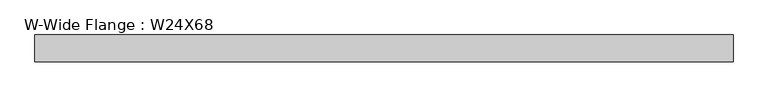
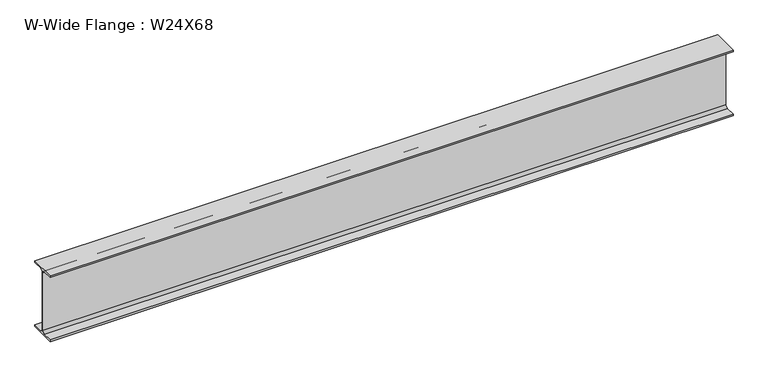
"""IFC4 building model written with IfcOpenShell, lengths in millimetres: beam geometry, W-Wide Flange : W24X68."""

from ifc_helpers import new_model, si_unit, point, frame, frame_2d, origin, place, context, project, spatial, polyline, circle_curve, trimmed, segment, composite_curve, outline, extrude, source, transform, mapped, element, save


def w_wide_flange_w24x68_27c3fe05(model_context):
    return source(origin(), model_context, "Body", "SweptSolid", [
        extrude(outline(composite_curve([segment(polyline([(113.919, -286.131), (113.919, -300.99), (-113.919, -300.99), (-113.919, -286.131), (-28.5115, -286.131)]), True, "CONTINUOUS"), segment(trimmed(circle_curve(frame_2d((-28.5115, -262.89)), 23.241), [point((-28.5115, -286.131))], [point((-5.2705, -262.89))], True, "CARTESIAN"), True, "CONTINUOUS"), segment(polyline([(-5.2705, -262.89), (-5.2705, 262.89)]), True, "CONTINUOUS"), segment(trimmed(circle_curve(frame_2d((-28.5115, 262.89)), 23.241), [point((-5.2705, 262.89))], [point((-28.5115, 286.131))], True, "CARTESIAN"), True, "CONTINUOUS"), segment(polyline([(-28.5115, 286.131), (-113.919, 286.131), (-113.919, 300.99), (113.919, 300.99), (113.919, 286.131), (28.5115, 286.131)]), True, "CONTINUOUS"), segment(trimmed(circle_curve(frame_2d((28.5115, 262.89)), 23.241), [point((28.5115, 286.131))], [point((5.2705, 262.89))], True, "CARTESIAN"), True, "CONTINUOUS"), segment(polyline([(5.2705, 262.89), (5.2705, -262.89)]), True, "CONTINUOUS"), segment(trimmed(circle_curve(frame_2d((28.5115, -262.89)), 23.241), [point((5.2705, -262.89))], [point((28.5115, -286.131))], True, "CARTESIAN"), True, "CONTINUOUS"), segment(polyline([(28.5115, -286.131), (113.919, -286.131)]), True, "CONTINUOUS")], self_intersect=False)), frame((-2950.74975, 0.0, 0.0), z_axis=(1.0, 0.0, 0.0), x_axis=(0.0, 1.0, 0.0)), (0.0, 0.0, 1.0), 5901.4995),
    ])


if __name__ == "__main__":
    model = new_model("IFC4")
    model_context = context("Model", 3, world=origin())
    ifc_project = project(units=[si_unit("LENGTHUNIT", "METRE", prefix="MILLI")], contexts=[model_context])
    site = spatial("IfcSite", under=ifc_project)
    building = spatial("IfcBuilding", under=site)
    placement = place(None, origin())
    w_wide_flange_w24x68_shape = w_wide_flange_w24x68_27c3fe05(model_context)
    element("IfcBeam", 1, ObjectType="W-Wide Flange : W24X68", at=placement, inside=building, context=model_context, shape_type="MappedRepresentation", body=[
        mapped(w_wide_flange_w24x68_shape, transform((0.0, 0.0, 0.0), x_axis=(1.0, 0.0, 0.0), y_axis=(0.0, 1.0, 0.0), z_axis=(0.0, 0.0, 1.0))),
    ])
    save(model, "model.ifc")
